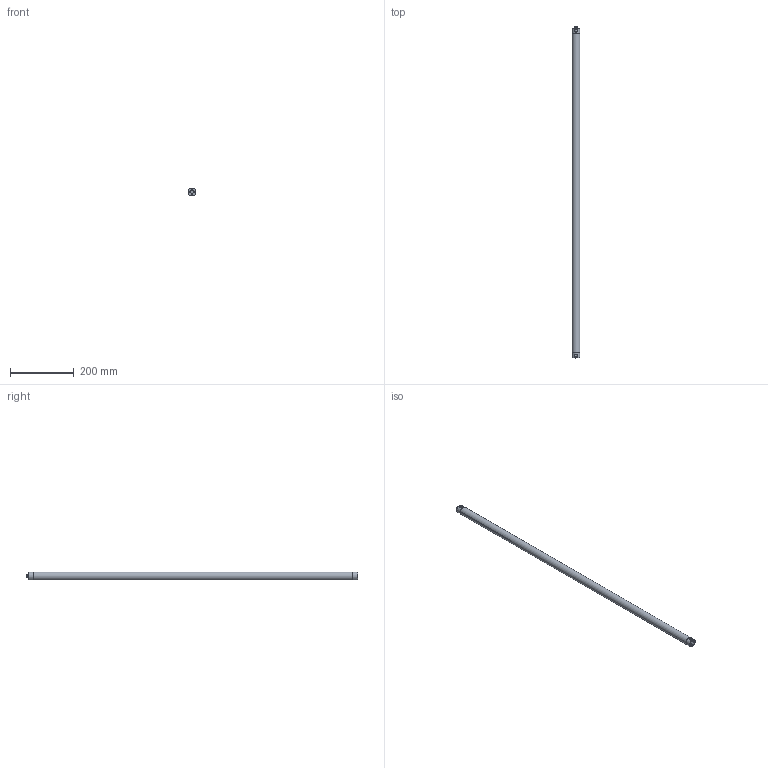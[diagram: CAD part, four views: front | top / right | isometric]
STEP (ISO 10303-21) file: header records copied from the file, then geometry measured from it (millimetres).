
FILE_DESCRIPTION (( 'STEP AP214' ), '1' );
FILE_NAME ('Slimbar 40 LED.STEP', '2011-05-26T18:00:25', ( 'JRLEDS' ), ( '' ), 'SwSTEP 2.0', 'SolidWorks 2010', '' );
FILE_SCHEMA (( 'AUTOMOTIVE_DESIGN' ));
Length unit declared in the file: millimetre
Products named in the file (7): Profilé tube 1000mm; Embout non percé; Diffusant 1000mm; Connecteur M8; Circuit 5 XPE 10mm; Slimbar 40 LED
Assembly tree (13 placements, depth 2):
  Slimbar 40 LED
    Circuit 5 XPE 10mm  x8
    Embout non percé
    Embout non percé
    Diffusant 1000mm
    Connecteur M8
    Profilé tube 1000mm
Bounding box: 25.01 x 1040 x 25.02 mm (x, y, z)
Volume: 268418 mm3; surface area: 241974.1 mm2
Topology: 13 solids, 13 shells, 404 faces, 975 edges, 648 vertices
Faces by surface type: plane 237, cylinder 154, cone 13
Entity records: 6737 total; most frequent: CARTESIAN_POINT 1548, DIRECTION 999, ORIENTED_EDGE 942, EDGE_CURVE 471, AXIS2_PLACEMENT_3D 373, VERTEX_POINT 312, LINE 253, VECTOR 253
